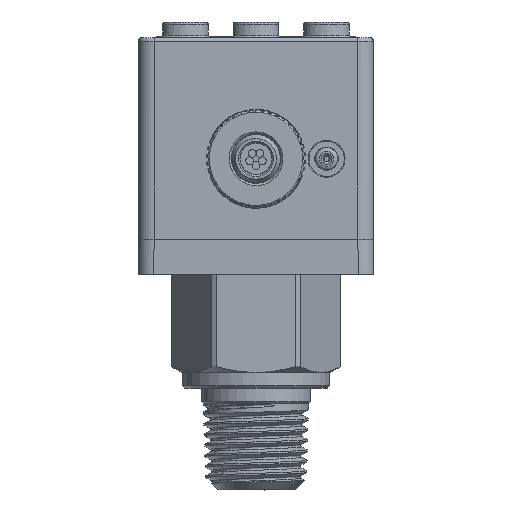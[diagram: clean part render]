
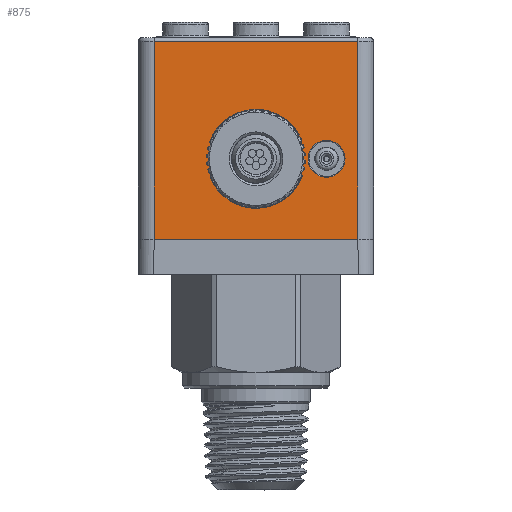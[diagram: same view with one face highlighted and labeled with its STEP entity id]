
A CAD part, front view. The second image highlights one B-rep face of the part: STEP entity #875.
In plain terms, the highlighted planar face has unit normal (0, -1, 0).
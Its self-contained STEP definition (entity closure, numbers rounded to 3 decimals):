
#875=ADVANCED_FACE('',(#2661,#2662,#2663),#2664,.T.);
#2661=FACE_BOUND('',#11761,.T.);
#2662=FACE_BOUND('',#11762,.T.);
#2663=FACE_OUTER_BOUND('',#11763,.T.);
#2664=PLANE('',#11764);
#11761=EDGE_LOOP('',(#18958));
#11762=EDGE_LOOP('',(#18959,#18960,#18961,#18962,#18963,#18964,#18965,#18966,#18967,#18968));
#11763=EDGE_LOOP('',(#18969,#18970,#18971,#18972));
#11764=AXIS2_PLACEMENT_3D('',#18973,#18974,#18975);
#18958=ORIENTED_EDGE('',*,*,#21468,.T.);
#18959=ORIENTED_EDGE('',*,*,#20833,.T.);
#18960=ORIENTED_EDGE('',*,*,#21055,.T.);
#18961=ORIENTED_EDGE('',*,*,#21602,.T.);
#18962=ORIENTED_EDGE('',*,*,#21598,.T.);
#18963=ORIENTED_EDGE('',*,*,#21005,.F.);
#18964=ORIENTED_EDGE('',*,*,#21865,.T.);
#18965=ORIENTED_EDGE('',*,*,#21867,.T.);
#18966=ORIENTED_EDGE('',*,*,#21875,.T.);
#18967=ORIENTED_EDGE('',*,*,#21877,.T.);
#18968=ORIENTED_EDGE('',*,*,#20232,.F.);
#18969=ORIENTED_EDGE('',*,*,#21207,.T.);
#18970=ORIENTED_EDGE('',*,*,#21713,.F.);
#18971=ORIENTED_EDGE('',*,*,#22098,.F.);
#18972=ORIENTED_EDGE('',*,*,#20913,.T.);
#18973=CARTESIAN_POINT('',(-15.,-15.,2.9));
#18974=DIRECTION('',(0.0,-1.0,0.0));
#18975=DIRECTION('',(0.0,0.0,-1.0));
#20232=EDGE_CURVE('',#22994,#22996,#22997,.T.);
#20833=EDGE_CURVE('',#22994,#24094,#24095,.T.);
#20913=EDGE_CURVE('',#24230,#24231,#24232,.T.);
#21005=EDGE_CURVE('',#24393,#24395,#24396,.T.);
#21055=EDGE_CURVE('',#24094,#24479,#24482,.T.);
#21207=EDGE_CURVE('',#24231,#24732,#24734,.T.);
#21468=EDGE_CURVE('',#25146,#25146,#25147,.T.);
#21598=EDGE_CURVE('',#25338,#24395,#25339,.T.);
#21602=EDGE_CURVE('',#24479,#25338,#25343,.T.);
#21713=EDGE_CURVE('',#24949,#24732,#25509,.T.);
#21865=EDGE_CURVE('',#24393,#25726,#25728,.T.);
#21867=EDGE_CURVE('',#25726,#25729,#25731,.T.);
#21875=EDGE_CURVE('',#25729,#25742,#25744,.T.);
#21877=EDGE_CURVE('',#25742,#22996,#25746,.T.);
#22098=EDGE_CURVE('',#24230,#24949,#26056,.T.);
#22994=VERTEX_POINT('',#29576);
#22996=VERTEX_POINT('',#29579);
#22997=CIRCLE('',#29580,6.3);
#24094=VERTEX_POINT('',#32875);
#24095=CIRCLE('',#32876,1.);
#24230=VERTEX_POINT('',#33245);
#24231=VERTEX_POINT('',#33246);
#24232=LINE('',#33247,#33248);
#24393=VERTEX_POINT('',#33604);
#24395=VERTEX_POINT('',#33607);
#24396=CIRCLE('',#33608,6.3);
#24479=VERTEX_POINT('',#33852);
#24482=LINE('',#33856,#33857);
#24732=VERTEX_POINT('',#34356);
#24734=LINE('',#34359,#34360);
#24949=VERTEX_POINT('',#35552);
#25146=VERTEX_POINT('',#35971);
#25147=CIRCLE('',#35972,2.357);
#25338=VERTEX_POINT('',#36448);
#25339=CIRCLE('',#36449,1.);
#25343=LINE('',#36460,#36461);
#25509=LINE('',#36844,#36845);
#25726=VERTEX_POINT('',#37379);
#25728=CIRCLE('',#37382,1.);
#25729=VERTEX_POINT('',#37383);
#25731=LINE('',#37386,#37387);
#25742=VERTEX_POINT('',#37417);
#25744=LINE('',#37420,#37421);
#25746=CIRCLE('',#37423,1.);
#26056=LINE('',#38357,#38358);
#29576=CARTESIAN_POINT('',(-5.657,-15.,11.977));
#29579=CARTESIAN_POINT('',(5.657,-15.,11.977));
#29580=AXIS2_PLACEMENT_3D('',#39420,#39421,#39422);
#32875=CARTESIAN_POINT('',(-5.759,-15.,12.4));
#32876=AXIS2_PLACEMENT_3D('',#40204,#40205,#40206);
#33245=CARTESIAN_POINT('',(-13.,-15.,29.7));
#33246=CARTESIAN_POINT('',(-13.,-15.,4.5));
#33247=CARTESIAN_POINT('',(-13.,-15.,29.7));
#33248=VECTOR('',#40298,1.0);
#33604=CARTESIAN_POINT('',(5.657,-15.,17.523));
#33607=CARTESIAN_POINT('',(-5.657,-15.,17.523));
#33608=AXIS2_PLACEMENT_3D('',#40426,#40427,#40428);
#33852=CARTESIAN_POINT('',(-5.8,-15.,14.75));
#33856=CARTESIAN_POINT('',(-5.759,-15.,12.4));
#33857=VECTOR('',#40474,1.0);
#34356=CARTESIAN_POINT('',(13.,-15.,4.5));
#34359=CARTESIAN_POINT('',(-13.,-15.,4.5));
#34360=VECTOR('',#40670,1.0);
#35552=CARTESIAN_POINT('',(13.,-15.,29.7));
#35971=CARTESIAN_POINT('',(11.357,-15.,14.75));
#35972=AXIS2_PLACEMENT_3D('',#41020,#41021,#41022);
#36448=CARTESIAN_POINT('',(-5.759,-15.,17.1));
#36449=AXIS2_PLACEMENT_3D('',#41180,#41181,#41182);
#36460=CARTESIAN_POINT('',(-5.8,-15.,14.75));
#36461=VECTOR('',#41184,1.0);
#36844=CARTESIAN_POINT('',(13.,-15.,29.7));
#36845=VECTOR('',#41308,1.0);
#37379=CARTESIAN_POINT('',(5.759,-15.,17.1));
#37382=AXIS2_PLACEMENT_3D('',#41471,#41472,#41473);
#37383=CARTESIAN_POINT('',(5.8,-15.,14.75));
#37386=CARTESIAN_POINT('',(5.759,-15.,17.1));
#37387=VECTOR('',#41475,1.0);
#37417=CARTESIAN_POINT('',(5.759,-15.,12.4));
#37420=CARTESIAN_POINT('',(5.8,-15.,14.75));
#37421=VECTOR('',#41478,1.0);
#37423=AXIS2_PLACEMENT_3D('',#41482,#41483,#41484);
#38357=CARTESIAN_POINT('',(-13.,-15.,29.7));
#38358=VECTOR('',#41754,1.0);
#39420=CARTESIAN_POINT('',(0.0,-15.,14.75));
#39421=DIRECTION('',(0.0,-1.0,-0.0));
#39422=DIRECTION('',(-0.898,0.0,-0.44));
#40204=CARTESIAN_POINT('',(-4.759,-15.,12.417));
#40205=DIRECTION('',(0.0,1.0,0.0));
#40206=DIRECTION('',(-0.898,0.0,-0.44));
#40298=DIRECTION('',(0.,0.,-1.));
#40426=CARTESIAN_POINT('',(0.0,-15.,14.75));
#40427=DIRECTION('',(0.0,-1.0,0.0));
#40428=DIRECTION('',(0.898,0.0,0.44));
#40474=DIRECTION('',(-0.017,0.0,1.));
#40670=DIRECTION('',(1.0,0.0,0.0));
#41020=CARTESIAN_POINT('',(9.,-15.,14.75));
#41021=DIRECTION('',(-0.0,1.0,0.0));
#41022=DIRECTION('',(1.0,0.0,0.0));
#41180=CARTESIAN_POINT('',(-4.759,-15.,17.083));
#41181=DIRECTION('',(0.0,1.0,0.0));
#41182=DIRECTION('',(-1.,0.0,0.017));
#41184=DIRECTION('',(0.017,0.0,1.));
#41308=DIRECTION('',(0.,0.,-1.));
#41471=CARTESIAN_POINT('',(4.759,-15.,17.083));
#41472=DIRECTION('',(-0.0,1.0,0.0));
#41473=DIRECTION('',(0.898,0.0,0.44));
#41475=DIRECTION('',(0.017,0.0,-1.));
#41478=DIRECTION('',(-0.017,0.0,-1.));
#41482=CARTESIAN_POINT('',(4.759,-15.,12.417));
#41483=DIRECTION('',(0.0,1.0,0.0));
#41484=DIRECTION('',(1.,0.0,-0.017));
#41754=DIRECTION('',(1.0,0.0,0.0));
